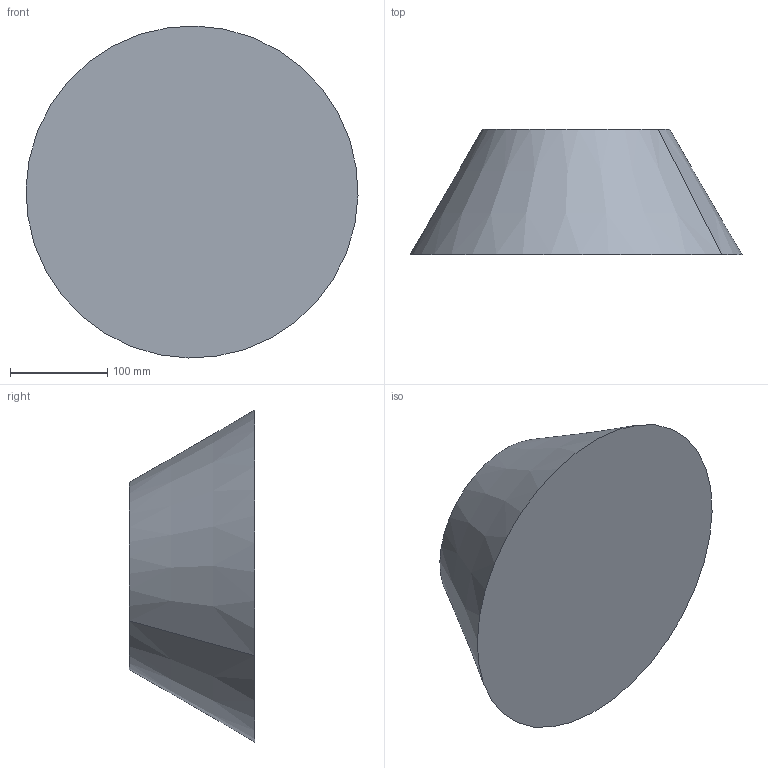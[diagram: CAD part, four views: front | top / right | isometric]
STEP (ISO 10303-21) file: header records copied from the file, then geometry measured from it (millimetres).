
FILE_DESCRIPTION(('CATIA V5 STEP Exchange'),'2;1');
FILE_NAME('C:\_Andres\UNIVERSIDAD\IQS\ASIGNATURAS\DAO\EXF\EXF-16172c\2inicio\Sala_Ferrero_Ej09_v29.stp','2017-03-05T22:13:14+00:00',('none'),('none'),'CATIA Version 5-6 Release 2014 SP1 HF18','CATIA V5 STEP AP203','none');
FILE_SCHEMA(('CONFIG_CONTROL_DESIGN'));
Length unit declared in the file: millimetre
Products named in the file (1): Sala_Ferrero_Ej09_v29
Bounding box: 341.9 x 129 x 341.9 mm (x, y, z)
Volume: 7430481.5 mm3; surface area: 248520.5 mm2
Topology: 1 solids, 2 shells, 8 faces, 12 edges, 8 vertices
Faces by surface type: plane 4, cone 2, cylinder 2
Entity records: 205 total; most frequent: CARTESIAN_POINT 27, DIRECTION 24, ORIENTED_EDGE 24, AXIS2_PLACEMENT_3D 15, EDGE_CURVE 12, ADVANCED_FACE 8, CIRCLE 8, EDGE_LOOP 8
